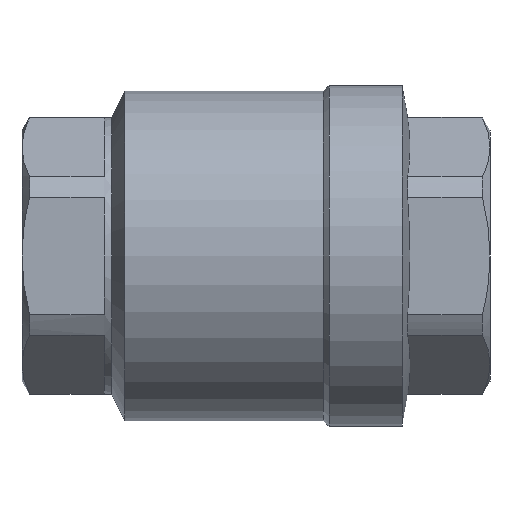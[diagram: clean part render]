
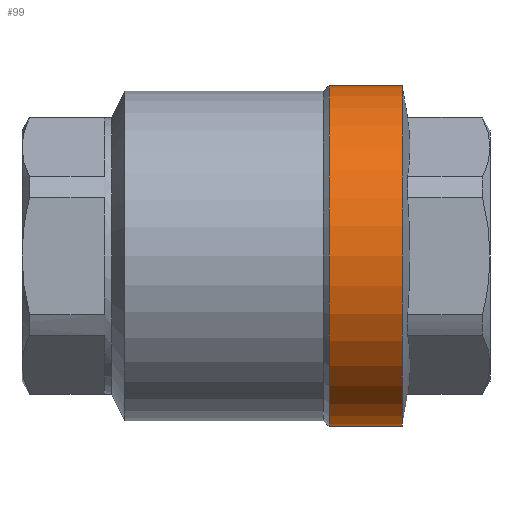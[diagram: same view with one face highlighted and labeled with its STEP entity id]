
A CAD part, front view. The second image highlights one B-rep face of the part: STEP entity #99.
In plain terms, the highlighted cylindrical face has radius 45.5 mm (diameter 91 mm), a full revolution.
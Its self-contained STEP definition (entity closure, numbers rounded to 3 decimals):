
#72 = CIRCLE ( 'NONE', #376, 45.5 ) ;
#99 = ADVANCED_FACE ( 'NONE', ( #2382, #1183 ), #2598, .T. ) ;
#295 = VERTEX_POINT ( 'NONE', #2270 ) ;
#338 = CARTESIAN_POINT ( 'NONE',  ( -55.019, 0., 0. ) ) ;
#376 = AXIS2_PLACEMENT_3D ( 'NONE', #688, #2273, #915 ) ;
#411 = CIRCLE ( 'NONE', #2977, 45.5 ) ;
#614 = EDGE_LOOP ( 'NONE', ( #668 ) ) ;
#668 = ORIENTED_EDGE ( 'NONE', *, *, #2329, .T. ) ;
#688 = CARTESIAN_POINT ( 'NONE',  ( 39.001, 0., 0. ) ) ;
#753 = EDGE_LOOP ( 'NONE', ( #2981 ) ) ;
#809 = EDGE_CURVE ( 'NONE', #295, #295, #411, .T. ) ;
#915 = DIRECTION ( 'NONE',  ( 0., 0., 1. ) ) ;
#1183 = FACE_OUTER_BOUND ( 'NONE', #753, .T. ) ;
#1197 = DIRECTION ( 'NONE',  ( 0., 0., 1. ) ) ;
#1222 = CARTESIAN_POINT ( 'NONE',  ( 19.5, 0., 0. ) ) ;
#1465 = DIRECTION ( 'NONE',  ( 0., 0., 1. ) ) ;
#1494 = DIRECTION ( 'NONE',  ( -1., 0., 0. ) ) ;
#1615 = CARTESIAN_POINT ( 'NONE',  ( 39.001, 0., 45.5 ) ) ;
#1721 = AXIS2_PLACEMENT_3D ( 'NONE', #338, #1494, #1197 ) ;
#1983 = VERTEX_POINT ( 'NONE', #1615 ) ;
#2270 = CARTESIAN_POINT ( 'NONE',  ( 19.5, 0., 45.5 ) ) ;
#2273 = DIRECTION ( 'NONE',  ( -1., 0., 0. ) ) ;
#2329 = EDGE_CURVE ( 'NONE', #1983, #1983, #72, .T. ) ;
#2382 = FACE_OUTER_BOUND ( 'NONE', #614, .T. ) ;
#2598 = CYLINDRICAL_SURFACE ( 'NONE', #1721, 45.5 ) ;
#2804 = DIRECTION ( 'NONE',  ( -1., 0., 0. ) ) ;
#2977 = AXIS2_PLACEMENT_3D ( 'NONE', #1222, #2804, #1465 ) ;
#2981 = ORIENTED_EDGE ( 'NONE', *, *, #809, .F. ) ;
